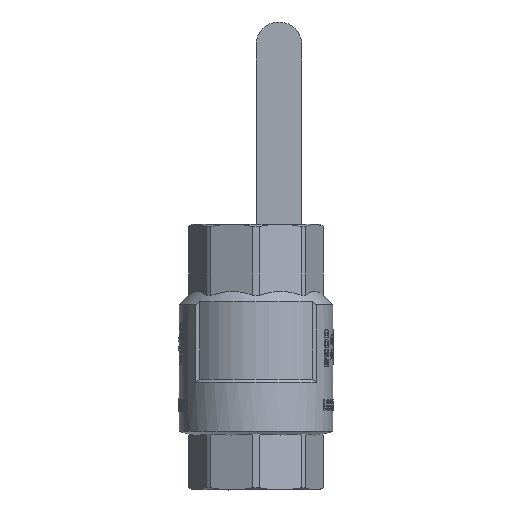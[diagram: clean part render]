
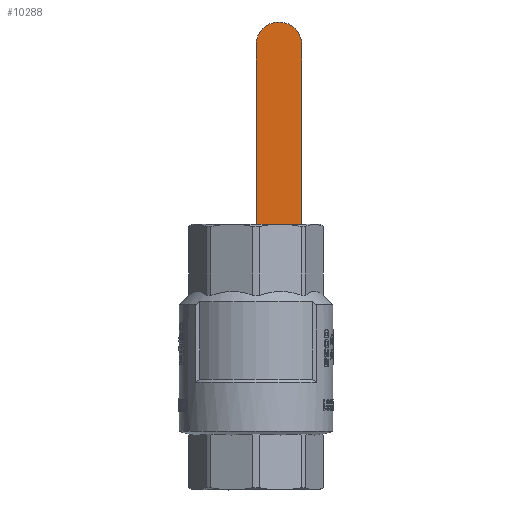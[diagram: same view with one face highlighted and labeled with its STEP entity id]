
A CAD part, front view. The second image highlights one B-rep face of the part: STEP entity #10288.
In plain terms, the highlighted planar face has unit normal (0, -1, 0).
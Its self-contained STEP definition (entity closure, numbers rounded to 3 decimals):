
#362=PLANE('',#10878);
#811=CIRCLE('',#10861,7.25);
#1405=FACE_OUTER_BOUND('',#2038,.T.);
#2038=EDGE_LOOP('',(#9412,#9413,#9414,#9415));
#3259=LINE('',#27362,#3938);
#3270=LINE('',#27396,#3949);
#3277=LINE('',#27416,#3956);
#3938=VECTOR('',#12629,10.);
#3949=VECTOR('',#12662,10.);
#3956=VECTOR('',#12689,10.);
#4943=VERTEX_POINT('',#27359);
#4944=VERTEX_POINT('',#27361);
#4947=VERTEX_POINT('',#27370);
#4956=VERTEX_POINT('',#27394);
#6452=EDGE_CURVE('',#4944,#4943,#3259,.T.);
#6457=EDGE_CURVE('',#4943,#4947,#811,.T.);
#6470=EDGE_CURVE('',#4947,#4956,#3270,.T.);
#6481=EDGE_CURVE('',#4956,#4944,#3277,.T.);
#9412=ORIENTED_EDGE('',*,*,#6452,.T.);
#9413=ORIENTED_EDGE('',*,*,#6457,.T.);
#9414=ORIENTED_EDGE('',*,*,#6470,.T.);
#9415=ORIENTED_EDGE('',*,*,#6481,.T.);
#10288=ADVANCED_FACE('',(#1405),#362,.T.);
#10861=AXIS2_PLACEMENT_3D('',#27371,#12638,#12639);
#10878=AXIS2_PLACEMENT_3D('',#27415,#12687,#12688);
#12629=DIRECTION('',(0.,0.,1.));
#12638=DIRECTION('center_axis',(0.,-1.,0.));
#12639=DIRECTION('ref_axis',(-1.,0.,0.));
#12662=DIRECTION('',(0.,0.,-1.));
#12687=DIRECTION('center_axis',(0.,-1.,0.));
#12688=DIRECTION('ref_axis',(0.,0.,-1.));
#12689=DIRECTION('',(1.,0.,0.));
#27359=CARTESIAN_POINT('',(14.5,61.48,98.599));
#27361=CARTESIAN_POINT('',(14.5,61.48,32.028));
#27362=CARTESIAN_POINT('',(14.5,61.48,66.264));
#27370=CARTESIAN_POINT('',(0.,61.48,98.599));
#27371=CARTESIAN_POINT('Origin',(7.25,61.48,98.599));
#27394=CARTESIAN_POINT('',(0.,61.48,32.028));
#27396=CARTESIAN_POINT('',(0.,61.48,110.365));
#27415=CARTESIAN_POINT('Origin',(0.,61.48,122.13));
#27416=CARTESIAN_POINT('',(0.,61.48,32.028));
